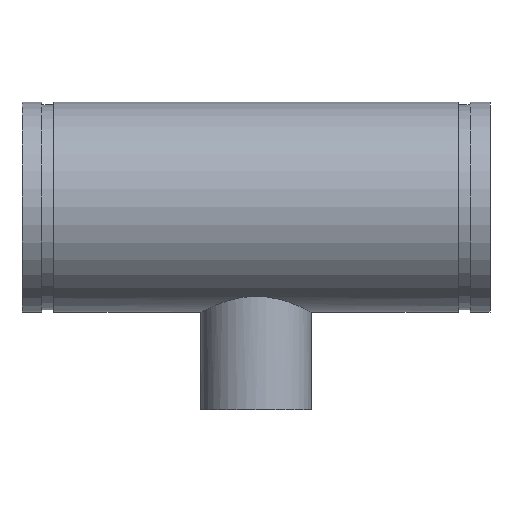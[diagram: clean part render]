
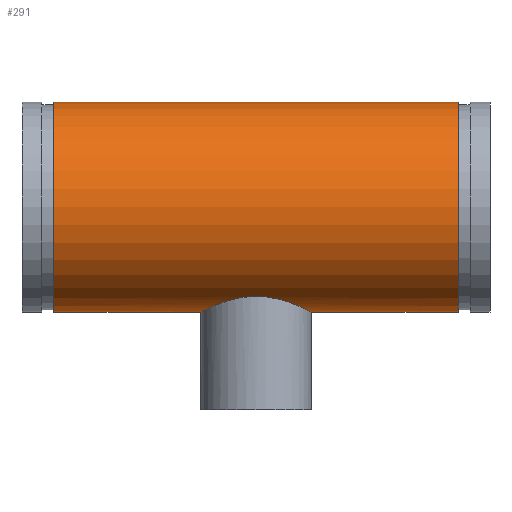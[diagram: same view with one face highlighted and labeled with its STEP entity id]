
A CAD part, top view. The second image highlights one B-rep face of the part: STEP entity #291.
In plain terms, the highlighted cylindrical face has radius 84.138 mm (diameter 168.275 mm), a full revolution.
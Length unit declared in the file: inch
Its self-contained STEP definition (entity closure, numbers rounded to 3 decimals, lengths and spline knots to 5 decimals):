
#45=B_SPLINE_CURVE_WITH_KNOTS('',3,(#511,#512,#513,#514,#515,#516,#517,
#518,#519,#520,#521,#522,#523,#524,#525,#526,#527,#528,#529,#530,#531,#532,
#533,#534,#535,#536,#537,#538,#539,#540,#541,#542,#543,#544,#545,#546,#547,
#548,#549,#550,#551,#552,#553,#554,#555,#556,#557,#558,#559,#560),
 .UNSPECIFIED.,.F.,.F.,(4,2,2,2,2,2,2,2,2,2,2,2,2,2,2,2,2,2,2,2,2,2,2,2,
4),(0.,0.85816,1.71632,2.57448,3.43264,
4.28778,5.14292,5.99807,6.85321,7.70835,
8.5635,9.41864,10.27378,11.13194,11.9901,
12.84826,13.70642,14.56458,15.42274,16.28089,
17.13905,17.9942,18.84934,19.70448,20.55963),
 .UNSPECIFIED.);
#46=B_SPLINE_CURVE_WITH_KNOTS('',3,(#561,#562,#563,#564,#565,#566,#567,
#568,#569,#570,#571,#572,#573,#574,#575,#576,#577,#578),.UNSPECIFIED.,.F.,
 .F.,(4,2,2,2,2,2,2,2,4),(20.55963,21.41477,22.26991,
23.12506,23.9802,24.83836,25.69652,26.55468,
27.41284),.UNSPECIFIED.);
#51=LINE('',#508,#59);
#59=VECTOR('',#410,3.3125);
#67=CYLINDRICAL_SURFACE('',#338,3.3125);
#77=FACE_BOUND('',#108,.T.);
#88=FACE_OUTER_BOUND('',#107,.T.);
#107=EDGE_LOOP('',(#221,#222,#223,#224));
#108=EDGE_LOOP('',(#225,#226));
#121=CIRCLE('',#321,3.3125);
#132=CIRCLE('',#337,3.3125);
#141=VERTEX_POINT('',#476);
#152=VERTEX_POINT('',#505);
#153=VERTEX_POINT('',#509);
#154=VERTEX_POINT('',#510);
#165=EDGE_CURVE('',#141,#141,#121,.T.);
#178=EDGE_CURVE('',#152,#152,#132,.T.);
#179=EDGE_CURVE('',#152,#141,#51,.T.);
#180=EDGE_CURVE('',#153,#154,#45,.T.);
#181=EDGE_CURVE('',#154,#153,#46,.T.);
#221=ORIENTED_EDGE('',*,*,#178,.T.);
#222=ORIENTED_EDGE('',*,*,#179,.T.);
#223=ORIENTED_EDGE('',*,*,#165,.T.);
#224=ORIENTED_EDGE('',*,*,#179,.F.);
#225=ORIENTED_EDGE('',*,*,#180,.F.);
#226=ORIENTED_EDGE('',*,*,#181,.F.);
#291=ADVANCED_FACE('',(#88,#77),#67,.T.);
#321=AXIS2_PLACEMENT_3D('',#477,#372,#373);
#337=AXIS2_PLACEMENT_3D('',#506,#406,#407);
#338=AXIS2_PLACEMENT_3D('',#507,#408,#409);
#372=DIRECTION('center_axis',(-1.,0.,0.));
#373=DIRECTION('ref_axis',(0.,-1.,0.));
#406=DIRECTION('center_axis',(1.,0.,0.));
#407=DIRECTION('ref_axis',(0.,-1.,0.));
#408=DIRECTION('center_axis',(-1.,0.,0.));
#409=DIRECTION('ref_axis',(0.,-1.,0.));
#410=DIRECTION('',(1.,0.,0.));
#476=CARTESIAN_POINT('',(6.38,3.3125,0.));
#477=CARTESIAN_POINT('Origin',(6.38,0.,0.));
#505=CARTESIAN_POINT('',(-6.38,3.3125,0.));
#506=CARTESIAN_POINT('Origin',(-6.38,0.,0.));
#507=CARTESIAN_POINT('Origin',(7.38,0.,0.));
#508=CARTESIAN_POINT('',(7.38,3.3125,0.));
#509=CARTESIAN_POINT('',(0.,-2.8125,-1.75));
#510=CARTESIAN_POINT('',(-1.75,-3.3125,0.));
#511=CARTESIAN_POINT('Ctrl Pts',(0.,-2.8125,-1.75));
#512=CARTESIAN_POINT('Ctrl Pts',(0.11262,-2.8125,-1.75));
#513=CARTESIAN_POINT('Ctrl Pts',(0.22811,-2.81946,-1.73896));
#514=CARTESIAN_POINT('Ctrl Pts',(0.45612,-2.847,-1.69351));
#515=CARTESIAN_POINT('Ctrl Pts',(0.56865,-2.86751,-1.65912));
#516=CARTESIAN_POINT('Ctrl Pts',(0.78327,-2.91767,-1.56924));
#517=CARTESIAN_POINT('Ctrl Pts',(0.88557,-2.94728,-1.51369));
#518=CARTESIAN_POINT('Ctrl Pts',(1.07436,-3.00939,-1.38609));
#519=CARTESIAN_POINT('Ctrl Pts',(1.16085,-3.04184,-1.31403));
#520=CARTESIAN_POINT('Ctrl Pts',(1.31376,-3.10342,-1.16112));
#521=CARTESIAN_POINT('Ctrl Pts',(1.38578,-3.13486,-1.07476));
#522=CARTESIAN_POINT('Ctrl Pts',(1.51348,-3.19336,-0.88593));
#523=CARTESIAN_POINT('Ctrl Pts',(1.56917,-3.22039,-0.78344));
#524=CARTESIAN_POINT('Ctrl Pts',(1.65921,-3.26521,-0.56843));
#525=CARTESIAN_POINT('Ctrl Pts',(1.69363,-3.28301,-0.45569));
#526=CARTESIAN_POINT('Ctrl Pts',(1.73903,-3.30666,-0.22759));
#527=CARTESIAN_POINT('Ctrl Pts',(1.75,-3.3125,-0.11222));
#528=CARTESIAN_POINT('Ctrl Pts',(1.75,-3.3125,0.11222));
#529=CARTESIAN_POINT('Ctrl Pts',(1.73903,-3.30666,0.22759));
#530=CARTESIAN_POINT('Ctrl Pts',(1.69363,-3.28301,0.45569));
#531=CARTESIAN_POINT('Ctrl Pts',(1.65921,-3.26521,0.56843));
#532=CARTESIAN_POINT('Ctrl Pts',(1.56917,-3.22039,0.78344));
#533=CARTESIAN_POINT('Ctrl Pts',(1.51348,-3.19336,0.88593));
#534=CARTESIAN_POINT('Ctrl Pts',(1.38578,-3.13486,1.07476));
#535=CARTESIAN_POINT('Ctrl Pts',(1.31376,-3.10342,1.16112));
#536=CARTESIAN_POINT('Ctrl Pts',(1.16085,-3.04184,1.31403));
#537=CARTESIAN_POINT('Ctrl Pts',(1.07436,-3.00939,1.38609));
#538=CARTESIAN_POINT('Ctrl Pts',(0.88557,-2.94728,1.51369));
#539=CARTESIAN_POINT('Ctrl Pts',(0.78327,-2.91767,1.56924));
#540=CARTESIAN_POINT('Ctrl Pts',(0.56865,-2.86751,1.65912));
#541=CARTESIAN_POINT('Ctrl Pts',(0.45612,-2.847,1.69351));
#542=CARTESIAN_POINT('Ctrl Pts',(0.22811,-2.81946,1.73896));
#543=CARTESIAN_POINT('Ctrl Pts',(0.11262,-2.8125,1.75));
#544=CARTESIAN_POINT('Ctrl Pts',(-0.11262,-2.8125,1.75));
#545=CARTESIAN_POINT('Ctrl Pts',(-0.22811,-2.81946,1.73896));
#546=CARTESIAN_POINT('Ctrl Pts',(-0.45612,-2.847,1.69351));
#547=CARTESIAN_POINT('Ctrl Pts',(-0.56865,-2.86751,1.65912));
#548=CARTESIAN_POINT('Ctrl Pts',(-0.78327,-2.91767,1.56924));
#549=CARTESIAN_POINT('Ctrl Pts',(-0.88557,-2.94728,1.51369));
#550=CARTESIAN_POINT('Ctrl Pts',(-1.07436,-3.00939,1.38609));
#551=CARTESIAN_POINT('Ctrl Pts',(-1.16085,-3.04184,1.31403));
#552=CARTESIAN_POINT('Ctrl Pts',(-1.31376,-3.10342,1.16112));
#553=CARTESIAN_POINT('Ctrl Pts',(-1.38578,-3.13486,1.07476));
#554=CARTESIAN_POINT('Ctrl Pts',(-1.51348,-3.19336,0.88593));
#555=CARTESIAN_POINT('Ctrl Pts',(-1.56917,-3.22039,0.78344));
#556=CARTESIAN_POINT('Ctrl Pts',(-1.65921,-3.26521,0.56843));
#557=CARTESIAN_POINT('Ctrl Pts',(-1.69363,-3.28301,0.45569));
#558=CARTESIAN_POINT('Ctrl Pts',(-1.73903,-3.30666,0.22759));
#559=CARTESIAN_POINT('Ctrl Pts',(-1.75,-3.3125,0.11222));
#560=CARTESIAN_POINT('Ctrl Pts',(-1.75,-3.3125,0.));
#561=CARTESIAN_POINT('Ctrl Pts',(-1.75,-3.3125,0.));
#562=CARTESIAN_POINT('Ctrl Pts',(-1.75,-3.3125,-0.11222));
#563=CARTESIAN_POINT('Ctrl Pts',(-1.73903,-3.30666,-0.22759));
#564=CARTESIAN_POINT('Ctrl Pts',(-1.69363,-3.28301,-0.45569));
#565=CARTESIAN_POINT('Ctrl Pts',(-1.65921,-3.26521,-0.56843));
#566=CARTESIAN_POINT('Ctrl Pts',(-1.56917,-3.22039,-0.78344));
#567=CARTESIAN_POINT('Ctrl Pts',(-1.51348,-3.19336,-0.88593));
#568=CARTESIAN_POINT('Ctrl Pts',(-1.38578,-3.13486,-1.07476));
#569=CARTESIAN_POINT('Ctrl Pts',(-1.31376,-3.10342,-1.16112));
#570=CARTESIAN_POINT('Ctrl Pts',(-1.16085,-3.04184,-1.31403));
#571=CARTESIAN_POINT('Ctrl Pts',(-1.07436,-3.00939,-1.38609));
#572=CARTESIAN_POINT('Ctrl Pts',(-0.88557,-2.94728,-1.51369));
#573=CARTESIAN_POINT('Ctrl Pts',(-0.78327,-2.91767,-1.56924));
#574=CARTESIAN_POINT('Ctrl Pts',(-0.56865,-2.86751,-1.65912));
#575=CARTESIAN_POINT('Ctrl Pts',(-0.45612,-2.847,-1.69351));
#576=CARTESIAN_POINT('Ctrl Pts',(-0.22811,-2.81946,-1.73896));
#577=CARTESIAN_POINT('Ctrl Pts',(-0.11262,-2.8125,-1.75));
#578=CARTESIAN_POINT('Ctrl Pts',(0.,-2.8125,-1.75));
